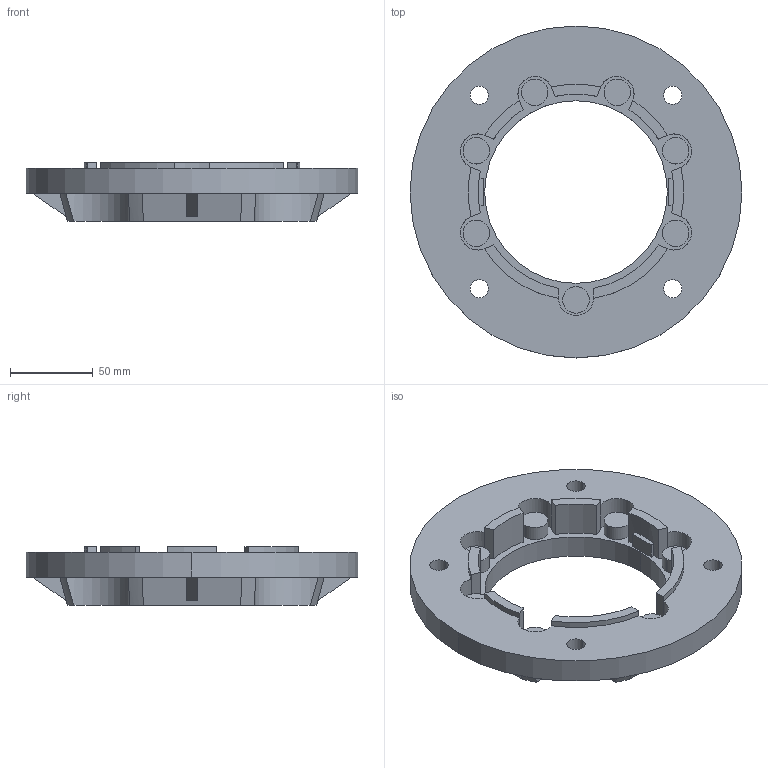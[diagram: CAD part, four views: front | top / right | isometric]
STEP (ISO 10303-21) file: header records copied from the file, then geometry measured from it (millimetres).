
FILE_DESCRIPTION(/* description */ (''),/* implementation_level */ '2;1');
FILE_NAME(/* name */ '2_FLANGIA (CAMPANA) LATERALE FC B063',/* time_stamp */ '2025-10-22T11:01:39+02:00',/* author */ (''),/* organization */ (''),/* preprocessor_version */ 'ST-DEVELOPER v19.2',/* originating_system */ 'Rhino 8.23',/* authorisation */ '');
FILE_SCHEMA (('CONFIG_CONTROL_DESIGN'));
Length unit declared in the file: millimetre
Products named in the file (2): Document; BFU063FC
Bounding box: 200 x 200 x 35.5 mm (x, y, z)
Volume: 433054.9 mm3; surface area: 83096.1 mm2
Topology: 1 solids, 1 shells, 115 faces, 312 edges, 208 vertices
Faces by surface type: plane 56, cylinder 51, bspline 8
Entity records: 4968 total; most frequent: CARTESIAN_POINT 1159, ORIENTED_EDGE 624, DIRECTION 387, EDGE_CURVE 312, AXIS2_PLACEMENT_3D 247, VERTEX_POINT 208, B_SPLINE_CURVE_WITH_KNOTS 176, TRIMMED_CURVE 136
